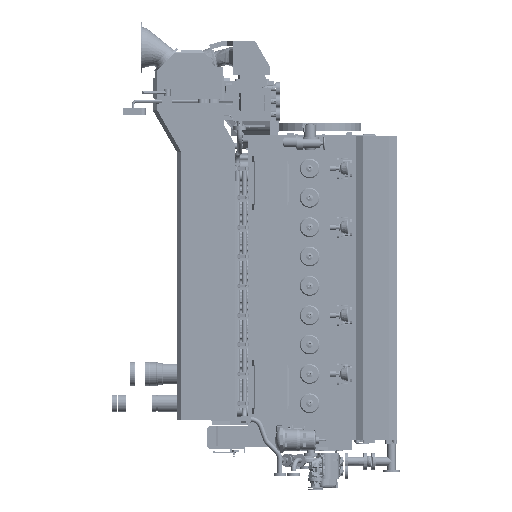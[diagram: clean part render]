
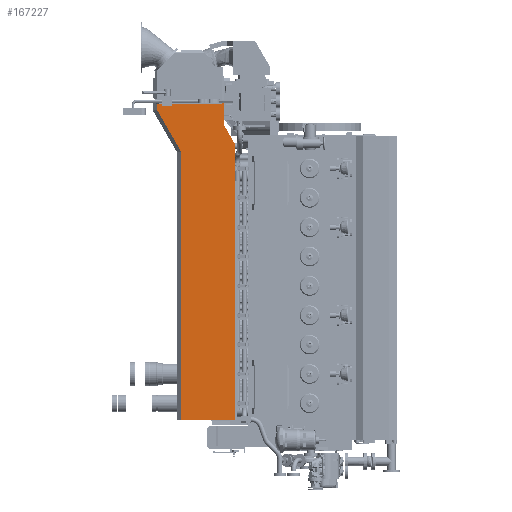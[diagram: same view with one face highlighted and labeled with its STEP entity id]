
A CAD part, left-side view. The second image highlights one B-rep face of the part: STEP entity #167227.
In plain terms, the highlighted planar face has unit normal (-1, 0, 0).
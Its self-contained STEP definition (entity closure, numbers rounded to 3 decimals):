
#165914=DIRECTION('',(0.,0.,1.));
#165915=VECTOR('',#165914,29.002);
#165916=CARTESIAN_POINT('',(-1090.5,1385.,941.498));
#165917=LINE('',#165916,#165915);
#165918=DIRECTION('',(0.,-1.,0.));
#165919=VECTOR('',#165918,20.);
#165920=CARTESIAN_POINT('',(-1090.5,1385.,970.5));
#165921=LINE('',#165920,#165919);
#165922=DIRECTION('',(0.,0.,-1.));
#165923=VECTOR('',#165922,327.372);
#165924=CARTESIAN_POINT('',(-1090.5,1365.,970.5));
#165925=LINE('',#165924,#165923);
#165926=DIRECTION('',(0.,-0.5,-0.866));
#165927=VECTOR('',#165926,320.);
#165928=CARTESIAN_POINT('',(-1090.5,1365.,643.128));
#165929=LINE('',#165928,#165927);
#165930=DIRECTION('',(0.,0.,-1.));
#165931=VECTOR('',#165930,4052.3);
#165932=CARTESIAN_POINT('',(-1090.5,1205.,366.));
#165933=LINE('',#165932,#165931);
#165934=DIRECTION('',(0.,-1.,0.));
#165935=VECTOR('',#165934,2.698);
#165936=CARTESIAN_POINT('',(-1090.5,1986.921,238.5));
#165937=LINE('',#165936,#165935);
#165938=DIRECTION('',(0.,-0.5,-0.866));
#165939=VECTOR('',#165938,718.681);
#165940=CARTESIAN_POINT('',(-1090.5,2343.564,860.896));
#165941=LINE('',#165940,#165939);
#165942=DIRECTION('',(0.,0.,-1.));
#165943=VECTOR('',#165942,84.282);
#165944=CARTESIAN_POINT('',(-1090.5,2343.564,945.178));
#165945=LINE('',#165944,#165943);
#165946=DIRECTION('',(0.,-0.733,-0.68));
#165947=VECTOR('',#165946,5.41);
#165948=CARTESIAN_POINT('',(-1090.5,2343.564,945.178));
#165949=LINE('',#165948,#165947);
#165950=DIRECTION('',(0.,-1.,0.));
#165951=VECTOR('',#165950,954.599);
#165952=CARTESIAN_POINT('',(-1090.5,2339.599,941.498));
#165953=LINE('',#165952,#165951);
#166434=DIRECTION('',(0.,1.,0.));
#166435=VECTOR('',#166434,781.921);
#166436=CARTESIAN_POINT('',(-1090.5,1205.,-3686.3));
#166437=LINE('',#166436,#166435);
#166542=DIRECTION('',(0.,0.,-1.));
#166543=VECTOR('',#166542,3924.8);
#166544=CARTESIAN_POINT('',(-1090.5,1986.921,238.5));
#166545=LINE('',#166544,#166543);
#166640=CARTESIAN_POINT('',(-1090.5,1365.,643.128));
#166641=CARTESIAN_POINT('',(-1090.5,1205.,366.));
#166642=VERTEX_POINT('',#166640);
#166643=VERTEX_POINT('',#166641);
#166669=CARTESIAN_POINT('',(-1090.5,1986.921,-3686.3));
#166671=VERTEX_POINT('',#166669);
#166686=CARTESIAN_POINT('',(-1090.5,1205.,-3686.3));
#166687=VERTEX_POINT('',#166686);
#166782=CARTESIAN_POINT('',(-1090.5,2343.564,860.896));
#166783=CARTESIAN_POINT('',(-1090.5,1984.223,238.5));
#166784=VERTEX_POINT('',#166782);
#166785=VERTEX_POINT('',#166783);
#166786=CARTESIAN_POINT('',(-1090.5,1986.921,238.5));
#166787=VERTEX_POINT('',#166786);
#166792=CARTESIAN_POINT('',(-1090.5,1365.,970.5));
#166793=VERTEX_POINT('',#166792);
#166816=CARTESIAN_POINT('',(-1090.5,1385.,970.5));
#166817=CARTESIAN_POINT('',(-1090.5,1385.,941.498));
#166818=VERTEX_POINT('',#166816);
#166819=VERTEX_POINT('',#166817);
#166820=CARTESIAN_POINT('',(-1090.5,2343.564,945.178));
#166821=CARTESIAN_POINT('',(-1090.5,2339.599,941.498));
#166822=VERTEX_POINT('',#166820);
#166823=VERTEX_POINT('',#166821);
#167197=CARTESIAN_POINT('',(-1090.5,2045.42,970.5));
#167198=DIRECTION('',(1.,0.,0.));
#167199=DIRECTION('',(0.,0.,-1.));
#167200=AXIS2_PLACEMENT_3D('',#167197,#167198,#167199);
#167201=PLANE('',#167200);
#167203=ORIENTED_EDGE('',*,*,#167202,.T.);
#167205=ORIENTED_EDGE('',*,*,#167204,.T.);
#167207=ORIENTED_EDGE('',*,*,#167206,.T.);
#167209=ORIENTED_EDGE('',*,*,#167208,.T.);
#167211=ORIENTED_EDGE('',*,*,#167210,.T.);
#167213=ORIENTED_EDGE('',*,*,#167212,.T.);
#167215=ORIENTED_EDGE('',*,*,#167214,.F.);
#167217=ORIENTED_EDGE('',*,*,#167216,.T.);
#167219=ORIENTED_EDGE('',*,*,#167218,.F.);
#167221=ORIENTED_EDGE('',*,*,#167220,.F.);
#167223=ORIENTED_EDGE('',*,*,#167222,.T.);
#167224=ORIENTED_EDGE('',*,*,#167183,.T.);
#167225=EDGE_LOOP('',(#167203,#167205,#167207,#167209,#167211,#167213,#167215,
#167217,#167219,#167221,#167223,#167224));
#167226=FACE_OUTER_BOUND('',#167225,.F.);
#167227=ADVANCED_FACE('',(#167226),#167201,.F.);
#167183=EDGE_CURVE('',#166823,#166819,#165953,.T.);
#167202=EDGE_CURVE('',#166819,#166818,#165917,.T.);
#167204=EDGE_CURVE('',#166818,#166793,#165921,.T.);
#167206=EDGE_CURVE('',#166793,#166642,#165925,.T.);
#167208=EDGE_CURVE('',#166642,#166643,#165929,.T.);
#167210=EDGE_CURVE('',#166643,#166687,#165933,.T.);
#167212=EDGE_CURVE('',#166687,#166671,#166437,.T.);
#167214=EDGE_CURVE('',#166787,#166671,#166545,.T.);
#167216=EDGE_CURVE('',#166787,#166785,#165937,.T.);
#167218=EDGE_CURVE('',#166784,#166785,#165941,.T.);
#167220=EDGE_CURVE('',#166822,#166784,#165945,.T.);
#167222=EDGE_CURVE('',#166822,#166823,#165949,.T.);
